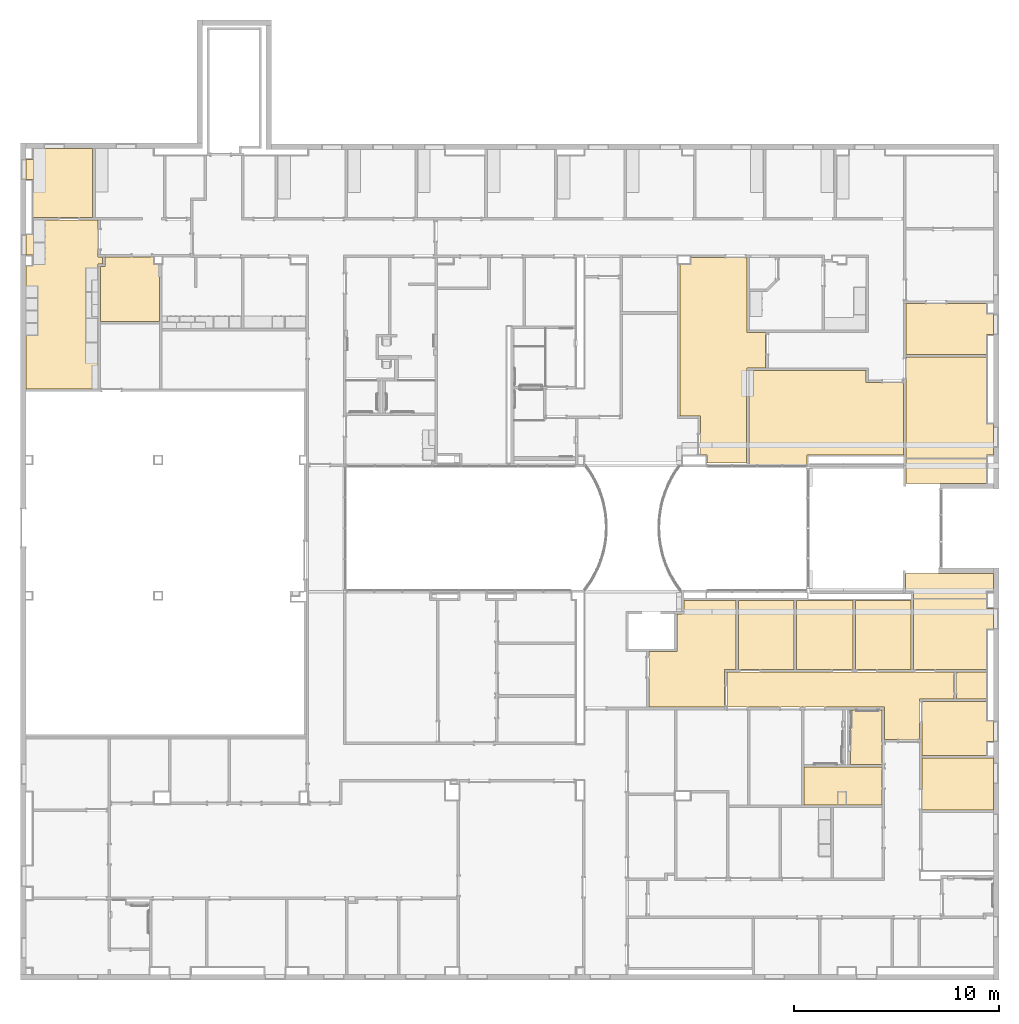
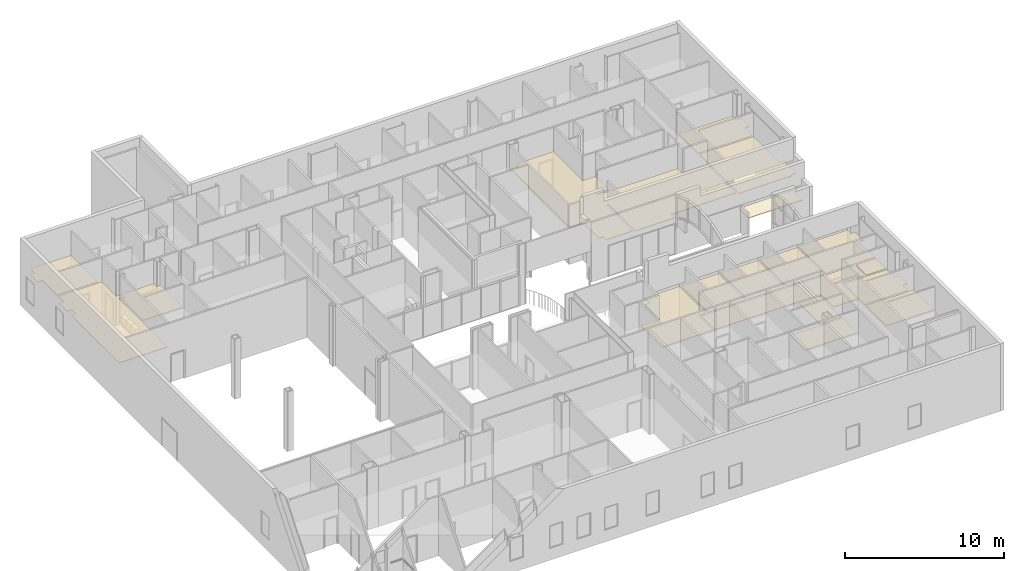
# One storey, part 29 of 47: 19 coverings.
"""IFC2X3 building model written with IfcOpenShell, lengths in metres."""

from ifc_helpers import new_model, entity, si_unit, converted_unit, frame, origin, place, context, project, spatial, face_set, surface_model, material, layer, layer_set, layer_usage, element, save


model = new_model("IFC2X3")

# Units and contexts
model_context = context("Model", 3, precision=1e-09, world=origin())
plan_context = context("Plan", 3, precision=1e-09, world=origin())
ifc_project = project(units=[si_unit("LENGTHUNIT", "METRE"), si_unit("AREAUNIT", "SQUARE_METRE"), si_unit("VOLUMEUNIT", "CUBIC_METRE"), converted_unit("PLANEANGLEUNIT", "DEGREE", entity("IfcRatioMeasure", 0.01745329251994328), si_unit("PLANEANGLEUNIT", "RADIAN"), dimensions=[0, 0, 0, 0, 0, 0, 0]), si_unit("TIMEUNIT", "SECOND")], contexts=[model_context, plan_context])

# Site, building, storey
site_placement = place(None, origin())
site = spatial("IfcSite", under=ifc_project, at=site_placement, Name="Default", CompositionType="ELEMENT")
building_placement = place(site_placement, origin())
building = spatial("IfcBuilding", under=site, at=building_placement, CompositionType="ELEMENT")
storey_placement = place(building_placement, frame((0.0, 0.0, 4.570000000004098)))
storey = spatial("IfcBuildingStorey", under=building, at=storey_placement, Name="Second Floor", CompositionType="ELEMENT", Elevation=4.570000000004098)

# Coverings
ifc_material_1 = material(Name="Default")
ifc_layer_1 = layer(ifc_material_1, 0.03599999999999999)
ifc_material_2 = material(Name="Ceiling Tile 600 x 600")
ifc_layer_2 = layer(ifc_material_2, 0.016)
ifc_layer_set_1 = layer_set([ifc_layer_1, ifc_layer_2], Name="Compound Ceiling:ACT 600 x 600mm Grid")
ifc_layer_usage_1 = layer_usage(ifc_layer_set_1, "AXIS3", "NEGATIVE", 0.0)
covering_1_placement = place(storey_placement, origin())
element("IfcCovering", 1, at=covering_1_placement, inside=storey, material=ifc_layer_usage_1, Name="Compound Ceiling:ACT 600 x 600mm Grid", ObjectType="Compound Ceiling:ACT 600 x 600mm Grid", PredefinedType="CEILING", context=model_context, shape_type="SurfaceModel", body=[
    surface_model("IfcFaceBasedSurfaceModel", [(-47.11300000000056, 48.72244629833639, 2.732000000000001), (-46.77000000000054, 48.72244629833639, 2.732000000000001), (-46.77000000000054, 46.87843871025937, 2.732000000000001), (-43.85400000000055, 46.87843871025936, 2.732000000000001), (-43.85400000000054, 50.23743871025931, 2.732000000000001), (-46.77000000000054, 50.23743871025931, 2.732000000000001), (-46.77000000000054, 49.72244628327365, 2.732000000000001), (-47.11300000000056, 49.72244628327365, 2.732000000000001), (-47.11300000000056, 48.72244629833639, 2.680000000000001), (-47.11300000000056, 49.72244628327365, 2.680000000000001), (-46.77000000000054, 49.72244628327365, 2.680000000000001), (-46.77000000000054, 50.23743871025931, 2.680000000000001), (-43.85400000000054, 50.23743871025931, 2.680000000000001), (-43.85400000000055, 46.87843871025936, 2.680000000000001), (-46.77000000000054, 46.87843871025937, 2.680000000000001), (-46.77000000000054, 48.72244629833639, 2.680000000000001)], [face_set([[[0, 1, 2, 3, 4, 5, 6, 7]], [[8, 9, 10, 11, 12, 13, 14, 15]], [[2, 14, 15, 1]], [[3, 2, 14, 13]], [[4, 3, 13, 12]], [[5, 11, 12, 4]], [[6, 10, 11, 5]], [[7, 9, 10, 6]], [[0, 8, 9, 7]], [[1, 0, 8, 15]]])]),
])
ifc_layer_usage_2 = layer_usage(ifc_layer_set_1, "AXIS3", "NEGATIVE", 0.0)
covering_2_placement = place(storey_placement, origin())
element("IfcCovering", 2, at=covering_2_placement, inside=storey, material=ifc_layer_usage_2, Name="Compound Ceiling:ACT 600 x 600mm Grid", ObjectType="Compound Ceiling:ACT 600 x 600mm Grid", PredefinedType="CEILING", context=model_context, shape_type="SurfaceModel", body=[
    surface_model("IfcFaceBasedSurfaceModel", [(0.1129999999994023, 42.1644387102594, 2.732000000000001), (-0.230000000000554, 42.1644387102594, 2.732000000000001), (-0.2300000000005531, 42.67043871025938, 2.732000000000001), (-4.14600000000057, 42.6704387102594, 2.732000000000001), (-4.146000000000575, 40.19843871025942, 2.732000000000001), (-0.2300000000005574, 40.19843871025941, 2.732000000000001), (-0.2300000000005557, 41.16435057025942, 2.732000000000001), (0.1129999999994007, 41.16435057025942, 2.732000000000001), (0.1129999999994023, 42.1644387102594, 2.680000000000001), (0.1129999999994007, 41.16435057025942, 2.680000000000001), (-0.2300000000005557, 41.16435057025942, 2.680000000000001), (-0.2300000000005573, 40.19843871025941, 2.680000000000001), (-4.146000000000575, 40.19843871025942, 2.680000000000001), (-4.14600000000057, 42.6704387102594, 2.680000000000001), (-0.230000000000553, 42.67043871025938, 2.680000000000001), (-0.230000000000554, 42.1644387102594, 2.680000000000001)], [face_set([[[0, 1, 2, 3, 4, 5, 6, 7]], [[8, 9, 10, 11, 12, 13, 14, 15]], [[2, 1, 15, 14]], [[3, 13, 14, 2]], [[4, 12, 13, 3]], [[5, 4, 12, 11]], [[6, 5, 11, 10]], [[7, 6, 10, 9]], [[0, 7, 9, 8]], [[1, 15, 8, 0]]])]),
])
ifc_layer_usage_3 = layer_usage(ifc_layer_set_1, "AXIS3", "NEGATIVE", 0.0)
covering_3_placement = place(storey_placement, origin())
element("IfcCovering", 3, at=covering_3_placement, inside=storey, material=ifc_layer_usage_3, Name="Compound Ceiling:ACT 600 x 600mm Grid", ObjectType="Compound Ceiling:ACT 600 x 600mm Grid", PredefinedType="CEILING", context=model_context, shape_type="SurfaceModel", body=[
    surface_model("IfcFaceBasedSurfaceModel", [(0.1129999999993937, 36.7956387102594, 2.732000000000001), (-0.2300000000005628, 36.7956387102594, 2.732000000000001), (-0.2300000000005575, 40.07443871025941, 2.732000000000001), (-4.146000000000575, 40.07443871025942, 2.732000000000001), (-4.146000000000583, 35.14049999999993, 2.732000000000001), (-0.2300000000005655, 35.14049999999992, 2.732000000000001), (-0.230000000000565, 35.2744387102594, 2.732000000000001), (0.1129999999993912, 35.2744387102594, 2.732000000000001), (0.1129999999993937, 36.7956387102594, 2.680000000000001), (0.1129999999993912, 35.2744387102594, 2.680000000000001), (-0.230000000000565, 35.2744387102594, 2.680000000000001), (-0.2300000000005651, 35.14049999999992, 2.680000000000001), (-4.146000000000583, 35.14049999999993, 2.680000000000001), (-4.146000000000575, 40.07443871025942, 2.680000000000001), (-0.2300000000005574, 40.07443871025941, 2.680000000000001), (-0.2300000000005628, 36.7956387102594, 2.680000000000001)], [face_set([[[0, 1, 2, 3, 4, 5, 6, 7]], [[8, 9, 10, 11, 12, 13, 14, 15]], [[2, 1, 15, 14]], [[3, 13, 14, 2]], [[4, 12, 13, 3]], [[5, 4, 12, 11]], [[6, 5, 11, 10]], [[7, 6, 10, 9]], [[0, 7, 9, 8]], [[1, 15, 8, 0]]])]),
])
ifc_layer_usage_4 = layer_usage(ifc_layer_set_1, "AXIS3", "NEGATIVE", 0.0)
covering_4_placement = place(storey_placement, origin())
element("IfcCovering", 4, at=covering_4_placement, inside=storey, material=ifc_layer_usage_4, Name="Compound Ceiling:ACT 600 x 600mm Grid", ObjectType="Compound Ceiling:ACT 600 x 600mm Grid", PredefinedType="CEILING", context=model_context, shape_type="SurfaceModel", body=[
    surface_model("IfcFaceBasedSurfaceModel", [(-14.64997500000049, 44.5844387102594, 2.732000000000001), (-14.64997500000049, 44.92043871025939, 2.732000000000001), (-11.92000000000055, 44.92043871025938, 2.732000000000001), (-11.92000000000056, 41.25443871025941, 2.732000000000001), (-11.00500000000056, 41.25443871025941, 2.732000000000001), (-11.00500000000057, 39.54443871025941, 2.732000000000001), (-11.92000000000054, 39.54443871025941, 2.732000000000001), (-11.92000000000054, 39.4204387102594, 2.732000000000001), (-6.104000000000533, 39.42043871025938, 2.732000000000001), (-6.104000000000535, 38.82043871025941, 2.732000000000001), (-4.270000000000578, 38.8204387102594, 2.732000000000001), (-4.270000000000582, 35.2744387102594, 2.732000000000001), (-8.981726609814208, 35.2744387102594, 2.732000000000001), (-8.981726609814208, 34.83380159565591, 2.732000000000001), (-11.83000000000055, 34.83380159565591, 2.732000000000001), (-11.83000000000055, 38.1449715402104, 2.732000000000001), (-11.95400000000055, 38.1449715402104, 2.732000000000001), (-11.95400000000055, 34.90443871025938, 2.732000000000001), (-13.8725000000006, 34.90443871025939, 2.732000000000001), (-13.8725000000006, 35.27443871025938, 2.732000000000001), (-14.19600000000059, 35.27443871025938, 2.732000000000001), (-14.19600000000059, 37.19843871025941, 2.732000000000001), (-15.1960000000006, 37.19843871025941, 2.732000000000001), (-15.19600000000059, 42.28643871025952, 2.732000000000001), (-15.19600000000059, 44.5844387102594, 2.732000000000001), (-14.64997500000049, 44.5844387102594, 2.680000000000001), (-14.64997500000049, 44.92043871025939, 2.680000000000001), (-11.92000000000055, 44.92043871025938, 2.680000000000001), (-11.92000000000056, 41.25443871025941, 2.680000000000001), (-11.00500000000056, 41.25443871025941, 2.680000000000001), (-11.00500000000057, 39.54443871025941, 2.680000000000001), (-11.92000000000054, 39.54443871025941, 2.680000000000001), (-11.92000000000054, 39.4204387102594, 2.680000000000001), (-6.104000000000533, 39.42043871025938, 2.680000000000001), (-6.104000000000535, 38.82043871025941, 2.680000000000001), (-4.270000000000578, 38.8204387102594, 2.680000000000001), (-4.270000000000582, 35.2744387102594, 2.680000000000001), (-8.981726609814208, 35.2744387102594, 2.680000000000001), (-8.981726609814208, 34.83380159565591, 2.680000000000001), (-11.83000000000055, 34.83380159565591, 2.680000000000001), (-11.83000000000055, 38.1449715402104, 2.680000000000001), (-11.95400000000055, 38.1449715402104, 2.680000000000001), (-11.95400000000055, 34.90443871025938, 2.680000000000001), (-13.8725000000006, 34.90443871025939, 2.680000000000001), (-13.8725000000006, 35.27443871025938, 2.680000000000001), (-14.19600000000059, 35.27443871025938, 2.680000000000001), (-14.19600000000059, 37.19843871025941, 2.680000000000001), (-15.1960000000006, 37.19843871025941, 2.680000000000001), (-15.19600000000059, 42.28643871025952, 2.680000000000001), (-15.19600000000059, 44.5844387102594, 2.680000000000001)], [face_set([[[0, 1, 2, 3, 4, 5, 6, 7, 8, 9, 10, 11, 12, 13, 14, 15, 16, 17, 18, 19, 20, 21, 22, 23, 24]], [[25, 26, 27, 28, 29, 30, 31, 32, 33, 34, 35, 36, 37, 38, 39, 40, 41, 42, 43, 44, 45, 46, 47, 48, 49]], [[24, 49, 25, 0]], [[23, 48, 49, 24]], [[22, 47, 48, 23]], [[21, 22, 47, 46]], [[20, 45, 46, 21]], [[19, 20, 45, 44]], [[18, 43, 44, 19]], [[17, 18, 43, 42]], [[16, 17, 42, 41]], [[15, 16, 41, 40]], [[14, 39, 40, 15]], [[13, 14, 39, 38]], [[12, 13, 38, 37]], [[11, 12, 37, 36]], [[10, 11, 36, 35]], [[9, 34, 35, 10]], [[8, 9, 34, 33]], [[7, 32, 33, 8]], [[6, 7, 32, 31]], [[5, 6, 31, 30]], [[4, 5, 30, 29]], [[3, 28, 29, 4]], [[2, 3, 28, 27]], [[1, 26, 27, 2]], [[0, 25, 26, 1]]])]),
])
ifc_layer_usage_5 = layer_usage(ifc_layer_set_1, "AXIS3", "NEGATIVE", 0.0)
covering_5_placement = place(storey_placement, origin())
element("IfcCovering", 5, at=covering_5_placement, inside=storey, material=ifc_layer_usage_5, Name="Compound Ceiling:ACT 600 x 600mm Grid", ObjectType="Compound Ceiling:ACT 600 x 600mm Grid", PredefinedType="CEILING", context=model_context, shape_type="SurfaceModel", body=[
    surface_model("IfcFaceBasedSurfaceModel", [(-43.47600000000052, 41.79843871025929, 2.732000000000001), (-43.47600000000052, 44.48043871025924, 2.732000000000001), (-43.24600000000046, 44.48043871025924, 2.732000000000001), (-43.24600000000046, 44.95443871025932, 2.732000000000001), (-40.8900000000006, 44.95443871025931, 2.732000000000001), (-40.8900000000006, 44.5844387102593, 2.732000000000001), (-40.60000000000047, 44.5844387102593, 2.732000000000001), (-40.60000000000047, 41.79843871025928, 2.732000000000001), (-43.47600000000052, 41.79843871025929, 2.680000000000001), (-43.47600000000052, 44.48043871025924, 2.680000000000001), (-43.24600000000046, 44.48043871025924, 2.680000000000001), (-43.24600000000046, 44.95443871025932, 2.680000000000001), (-40.8900000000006, 44.95443871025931, 2.680000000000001), (-40.8900000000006, 44.5844387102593, 2.680000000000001), (-40.60000000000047, 44.5844387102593, 2.680000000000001), (-40.60000000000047, 41.79843871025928, 2.680000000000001)], [face_set([[[0, 1, 2, 3, 4, 5, 6, 7]], [[8, 9, 10, 11, 12, 13, 14, 15]], [[7, 0, 8, 15]], [[6, 7, 15, 14]], [[5, 13, 14, 6]], [[4, 5, 13, 12]], [[3, 11, 12, 4]], [[2, 10, 11, 3]], [[1, 9, 10, 2]], [[0, 8, 9, 1]]])]),
])
ifc_layer_usage_6 = layer_usage(ifc_layer_set_1, "AXIS3", "NEGATIVE", 0.0)
covering_6_placement = place(storey_placement, origin())
element("IfcCovering", 6, at=covering_6_placement, inside=storey, material=ifc_layer_usage_6, Name="Compound Ceiling:ACT 600 x 600mm Grid", ObjectType="Compound Ceiling:ACT 600 x 600mm Grid", PredefinedType="CEILING", context=model_context, shape_type="SurfaceModel", body=[
    surface_model("IfcFaceBasedSurfaceModel", [(-47.11300000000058, 38.51843871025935, 2.732000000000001), (-47.11300000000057, 44.50692803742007, 2.732000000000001), (-46.77000000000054, 44.50692803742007, 2.732000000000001), (-46.77000000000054, 45.0444387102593, 2.732000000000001), (-47.11300000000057, 45.0444387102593, 2.732000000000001), (-47.11300000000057, 46.04443913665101, 2.732000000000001), (-46.77000000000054, 46.04443913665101, 2.732000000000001), (-46.77000000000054, 46.75443871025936, 2.732000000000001), (-43.60000000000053, 46.75443871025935, 2.732000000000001), (-43.60000000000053, 44.95443871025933, 2.732000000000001), (-43.37000000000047, 44.95443871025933, 2.732000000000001), (-43.37000000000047, 44.60443871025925, 2.732000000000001), (-43.60000000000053, 44.60443871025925, 2.732000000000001), (-43.60000000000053, 38.51843871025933, 2.732000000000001), (-47.11300000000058, 38.51843871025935, 2.680000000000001), (-47.11300000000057, 44.50692803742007, 2.680000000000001), (-46.77000000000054, 44.50692803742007, 2.680000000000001), (-46.77000000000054, 45.0444387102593, 2.680000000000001), (-47.11300000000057, 45.0444387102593, 2.680000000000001), (-47.11300000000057, 46.04443913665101, 2.680000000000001), (-46.77000000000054, 46.04443913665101, 2.680000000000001), (-46.77000000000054, 46.75443871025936, 2.680000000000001), (-43.60000000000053, 46.75443871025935, 2.680000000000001), (-43.60000000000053, 44.95443871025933, 2.680000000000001), (-43.37000000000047, 44.95443871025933, 2.680000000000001), (-43.37000000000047, 44.60443871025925, 2.680000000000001), (-43.60000000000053, 44.60443871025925, 2.680000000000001), (-43.60000000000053, 38.51843871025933, 2.680000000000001)], [face_set([[[0, 1, 2, 3, 4, 5, 6, 7, 8, 9, 10, 11, 12, 13]], [[14, 15, 16, 17, 18, 19, 20, 21, 22, 23, 24, 25, 26, 27]], [[13, 0, 14, 27]], [[12, 13, 27, 26]], [[11, 12, 26, 25]], [[10, 11, 25, 24]], [[9, 23, 24, 10]], [[8, 9, 23, 22]], [[7, 21, 22, 8]], [[6, 20, 21, 7]], [[5, 19, 20, 6]], [[4, 18, 19, 5]], [[3, 4, 18, 17]], [[2, 16, 17, 3]], [[1, 15, 16, 2]], [[0, 14, 15, 1]]])]),
])
ifc_layer_usage_7 = layer_usage(ifc_layer_set_1, "AXIS3", "NEGATIVE", 0.0)
covering_7_placement = place(storey_placement, origin())
element("IfcCovering", 7, at=covering_7_placement, inside=storey, material=ifc_layer_usage_7, Name="Compound Ceiling:ACT 600 x 600mm Grid", ObjectType="Compound Ceiling:ACT 600 x 600mm Grid", PredefinedType="CEILING", context=model_context, shape_type="SurfaceModel", body=[
    surface_model("IfcFaceBasedSurfaceModel", [(-3.366000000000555, 20.50443871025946, 2.732000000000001), (0.1129999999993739, 20.50443871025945, 2.732000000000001), (0.1129999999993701, 17.96793871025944, 2.732000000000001), (-3.366000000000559, 17.96793871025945, 2.732000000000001), (-3.366000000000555, 20.50443871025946, 2.680000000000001), (0.1129999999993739, 20.50443871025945, 2.680000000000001), (0.1129999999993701, 17.96793871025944, 2.680000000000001), (-3.366000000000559, 17.96793871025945, 2.680000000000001)], [face_set([[[0, 1, 2, 3]], [[4, 5, 6, 7]], [[3, 7, 4, 0]], [[2, 3, 7, 6]], [[1, 2, 6, 5]], [[0, 4, 5, 1]]])]),
])
ifc_layer_usage_8 = layer_usage(ifc_layer_set_1, "AXIS3", "NEGATIVE", 0.0)
covering_8_placement = place(storey_placement, origin())
element("IfcCovering", 8, at=covering_8_placement, inside=storey, material=ifc_layer_usage_8, Name="Compound Ceiling:ACT 600 x 600mm Grid", ObjectType="Compound Ceiling:ACT 600 x 600mm Grid", PredefinedType="CEILING", context=model_context, shape_type="SurfaceModel", body=[
    surface_model("IfcFaceBasedSurfaceModel", [(0.1129999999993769, 22.29443871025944, 2.732000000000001), (-0.2300000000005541, 22.29443871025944, 2.732000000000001), (-0.2300000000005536, 23.26043871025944, 2.732000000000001), (-3.36600000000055, 23.26043871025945, 2.732000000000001), (-3.366000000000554, 21.33903871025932, 2.732000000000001), (-3.366000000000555, 20.62843871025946, 2.732000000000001), (-0.2300000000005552, 20.62843871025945, 2.732000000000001), (-0.2300000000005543, 21.29443871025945, 2.732000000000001), (0.1129999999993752, 21.29443871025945, 2.732000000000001), (0.1129999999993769, 22.29443871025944, 2.680000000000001), (0.1129999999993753, 21.29443871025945, 2.680000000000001), (-0.2300000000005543, 21.29443871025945, 2.680000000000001), (-0.2300000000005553, 20.62843871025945, 2.680000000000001), (-3.366000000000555, 20.62843871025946, 2.680000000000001), (-3.366000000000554, 21.33903871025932, 2.680000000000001), (-3.36600000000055, 23.26043871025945, 2.680000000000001), (-0.2300000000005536, 23.26043871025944, 2.680000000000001), (-0.2300000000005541, 22.29443871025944, 2.680000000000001)], [face_set([[[0, 1, 2, 3, 4, 5, 6, 7, 8]], [[9, 10, 11, 12, 13, 14, 15, 16, 17]], [[2, 1, 17, 16]], [[3, 15, 16, 2]], [[4, 14, 15, 3]], [[5, 13, 14, 4]], [[6, 5, 13, 12]], [[7, 6, 12, 11]], [[8, 7, 11, 10]], [[0, 8, 10, 9]], [[1, 17, 9, 0]]])]),
])
ifc_layer_usage_9 = layer_usage(ifc_layer_set_1, "AXIS3", "NEGATIVE", 0.0)
covering_9_placement = place(storey_placement, origin())
element("IfcCovering", 9, at=covering_9_placement, inside=storey, material=ifc_layer_usage_9, Name="Compound Ceiling:ACT 600 x 600mm Grid", ObjectType="Compound Ceiling:ACT 600 x 600mm Grid", PredefinedType="CEILING", context=model_context, shape_type="SurfaceModel", body=[
    surface_model("IfcFaceBasedSurfaceModel", [(-9.126000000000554, 20.05443871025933, 2.732000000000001), (-5.324000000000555, 20.05443871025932, 2.732000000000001), (-5.324000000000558, 18.20443871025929, 2.732000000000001), (-9.126000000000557, 18.2044387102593, 2.732000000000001), (-9.126000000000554, 20.05443871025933, 2.680000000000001), (-5.324000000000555, 20.05443871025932, 2.680000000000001), (-5.324000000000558, 18.20443871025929, 2.680000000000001), (-9.126000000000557, 18.2044387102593, 2.680000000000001)], [face_set([[[0, 1, 2, 3]], [[4, 5, 6, 7]], [[3, 7, 4, 0]], [[2, 3, 7, 6]], [[1, 2, 6, 5]], [[0, 4, 5, 1]]])]),
])
ifc_layer_usage_10 = layer_usage(ifc_layer_set_1, "AXIS3", "NEGATIVE", 0.0)
covering_10_placement = place(storey_placement, origin())
element("IfcCovering", 10, at=covering_10_placement, inside=storey, material=ifc_layer_usage_10, Name="Compound Ceiling:ACT 600 x 600mm Grid", ObjectType="Compound Ceiling:ACT 600 x 600mm Grid", PredefinedType="CEILING", context=model_context, shape_type="SurfaceModel", body=[
    surface_model("IfcFaceBasedSurfaceModel", [(-6.870000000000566, 20.17843871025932, 2.732000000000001), (-6.870000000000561, 22.85043871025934, 2.732000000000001), (-5.324000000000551, 22.85043871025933, 2.732000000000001), (-5.324000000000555, 20.17843871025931, 2.732000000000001), (-6.870000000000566, 20.17843871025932, 2.680000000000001), (-6.870000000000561, 22.85043871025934, 2.680000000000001), (-5.324000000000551, 22.85043871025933, 2.680000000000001), (-5.324000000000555, 20.17843871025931, 2.680000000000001)], [face_set([[[0, 1, 2, 3]], [[4, 5, 6, 7]], [[3, 0, 4, 7]], [[2, 3, 7, 6]], [[1, 5, 6, 2]], [[0, 4, 5, 1]]])]),
])
ifc_layer_usage_11 = layer_usage(ifc_layer_set_1, "AXIS3", "NEGATIVE", 0.0)
covering_11_placement = place(storey_placement, origin())
element("IfcCovering", 11, at=covering_11_placement, inside=storey, material=ifc_layer_usage_11, Name="Compound Ceiling:ACT 600 x 600mm Grid", ObjectType="Compound Ceiling:ACT 600 x 600mm Grid", PredefinedType="CEILING", context=model_context, shape_type="SurfaceModel", body=[
    surface_model("IfcFaceBasedSurfaceModel", [(-12.88600000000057, 24.68443871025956, 2.732000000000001), (-1.810000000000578, 24.68443871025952, 2.732000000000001), (-1.810000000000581, 23.38443871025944, 2.732000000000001), (-3.49000000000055, 23.38443871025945, 2.732000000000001), (-3.490000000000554, 21.40103871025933, 2.732000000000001), (-5.200000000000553, 21.40103871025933, 2.732000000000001), (-5.200000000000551, 22.97443871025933, 2.732000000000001), (-12.88600000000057, 22.97443871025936, 2.732000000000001), (-12.88600000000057, 24.68443871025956, 2.680000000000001), (-1.810000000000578, 24.68443871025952, 2.680000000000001), (-1.810000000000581, 23.38443871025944, 2.680000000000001), (-3.49000000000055, 23.38443871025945, 2.680000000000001), (-3.490000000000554, 21.40103871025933, 2.680000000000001), (-5.200000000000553, 21.40103871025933, 2.680000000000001), (-5.200000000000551, 22.97443871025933, 2.680000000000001), (-12.88600000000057, 22.97443871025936, 2.680000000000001)], [face_set([[[0, 1, 2, 3, 4, 5, 6, 7]], [[8, 9, 10, 11, 12, 13, 14, 15]], [[7, 15, 8, 0]], [[6, 7, 15, 14]], [[5, 13, 14, 6]], [[4, 5, 13, 12]], [[3, 4, 12, 11]], [[2, 3, 11, 10]], [[1, 2, 10, 9]], [[0, 8, 9, 1]]])]),
])
ifc_layer_usage_12 = layer_usage(ifc_layer_set_1, "AXIS3", "NEGATIVE", 0.0)
covering_12_placement = place(storey_placement, origin())
element("IfcCovering", 12, at=covering_12_placement, inside=storey, material=ifc_layer_usage_12, Name="Compound Ceiling:ACT 600 x 600mm Grid", ObjectType="Compound Ceiling:ACT 600 x 600mm Grid", PredefinedType="CEILING", context=model_context, shape_type="SurfaceModel", body=[
    surface_model("IfcFaceBasedSurfaceModel", [(-1.686000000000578, 24.68443871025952, 2.732000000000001), (-0.2300000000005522, 24.68443871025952, 2.732000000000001), (-0.230000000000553, 23.38443871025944, 2.732000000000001), (-1.686000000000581, 23.38443871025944, 2.732000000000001), (-1.686000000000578, 24.68443871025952, 2.680000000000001), (-0.2300000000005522, 24.68443871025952, 2.680000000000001), (-0.2300000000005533, 23.38443871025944, 2.680000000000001), (-1.686000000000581, 23.38443871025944, 2.680000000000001)], [face_set([[[0, 1, 2, 3]], [[4, 5, 6, 7]], [[3, 7, 4, 0]], [[2, 3, 7, 6]], [[1, 2, 6, 5]], [[0, 4, 5, 1]]])]),
])
ifc_layer_usage_13 = layer_usage(ifc_layer_set_1, "AXIS3", "NEGATIVE", 0.0)
covering_13_placement = place(storey_placement, origin())
element("IfcCovering", 13, at=covering_13_placement, inside=storey, material=ifc_layer_usage_13, Name="Compound Ceiling:ACT 600 x 600mm Grid", ObjectType="Compound Ceiling:ACT 600 x 600mm Grid", PredefinedType="CEILING", context=model_context, shape_type="SurfaceModel", body=[
    surface_model("IfcFaceBasedSurfaceModel", [(-3.789975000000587, 24.80843871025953, 2.732000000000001), (-3.789975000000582, 28.2495, 2.732000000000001), (-0.230000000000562, 28.24949999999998, 2.732000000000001), (-0.2300000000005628, 27.79443871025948, 2.732000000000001), (0.1129999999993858, 27.79443871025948, 2.732000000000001), (0.1129999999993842, 26.79443871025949, 2.732000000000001), (-0.2300000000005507, 26.79443871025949, 2.732000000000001), (-0.230000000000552, 24.80843871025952, 2.732000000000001), (-3.789975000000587, 24.80843871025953, 2.680000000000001), (-3.789975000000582, 28.2495, 2.680000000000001), (-0.2300000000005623, 28.24949999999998, 2.680000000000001), (-0.2300000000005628, 27.79443871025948, 2.680000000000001), (0.1129999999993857, 27.79443871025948, 2.680000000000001), (0.1129999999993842, 26.79443871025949, 2.680000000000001), (-0.2300000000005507, 26.79443871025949, 2.680000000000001), (-0.2300000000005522, 24.80843871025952, 2.680000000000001)], [face_set([[[0, 1, 2, 3, 4, 5, 6, 7]], [[8, 9, 10, 11, 12, 13, 14, 15]], [[0, 8, 9, 1]], [[7, 0, 8, 15]], [[6, 7, 15, 14]], [[5, 6, 14, 13]], [[4, 5, 13, 12]], [[3, 11, 12, 4]], [[2, 3, 11, 10]], [[1, 9, 10, 2]]])]),
])
ifc_layer_usage_14 = layer_usage(ifc_layer_set_1, "AXIS3", "NEGATIVE", 0.0)
covering_14_placement = place(storey_placement, origin())
element("IfcCovering", 14, at=covering_14_placement, inside=storey, material=ifc_layer_usage_14, Name="Compound Ceiling:ACT 600 x 600mm Grid", ObjectType="Compound Ceiling:ACT 600 x 600mm Grid", PredefinedType="CEILING", context=model_context, shape_type="SurfaceModel", body=[
    surface_model("IfcFaceBasedSurfaceModel", [(-6.629975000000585, 24.80843871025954, 2.732000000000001), (-6.629975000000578, 28.18443871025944, 2.732000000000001), (-3.913975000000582, 28.18443871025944, 2.732000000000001), (-3.913975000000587, 24.80843871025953, 2.732000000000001), (-6.629975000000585, 24.80843871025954, 2.680000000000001), (-6.629975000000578, 28.18443871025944, 2.680000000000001), (-3.913975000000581, 28.18443871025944, 2.680000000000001), (-3.913975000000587, 24.80843871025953, 2.680000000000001)], [face_set([[[0, 1, 2, 3]], [[4, 5, 6, 7]], [[3, 0, 4, 7]], [[2, 3, 7, 6]], [[1, 5, 6, 2]], [[0, 4, 5, 1]]])]),
])
ifc_layer_usage_15 = layer_usage(ifc_layer_set_1, "AXIS3", "NEGATIVE", 0.0)
covering_15_placement = place(storey_placement, origin())
element("IfcCovering", 15, at=covering_15_placement, inside=storey, material=ifc_layer_usage_15, Name="Compound Ceiling:ACT 600 x 600mm Grid", ObjectType="Compound Ceiling:ACT 600 x 600mm Grid", PredefinedType="CEILING", context=model_context, shape_type="SurfaceModel", body=[
    surface_model("IfcFaceBasedSurfaceModel", [(-9.489975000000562, 24.80843871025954, 2.732000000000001), (-9.489975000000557, 28.18443871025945, 2.732000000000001), (-6.75397500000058, 28.18443871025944, 2.732000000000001), (-6.753975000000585, 24.80843871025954, 2.732000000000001), (-9.489975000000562, 24.80843871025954, 2.680000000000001), (-9.489975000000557, 28.18443871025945, 2.680000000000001), (-6.75397500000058, 28.18443871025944, 2.680000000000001), (-6.753975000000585, 24.80843871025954, 2.680000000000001)], [face_set([[[0, 1, 2, 3]], [[4, 5, 6, 7]], [[3, 0, 4, 7]], [[2, 3, 7, 6]], [[1, 5, 6, 2]], [[0, 4, 5, 1]]])]),
])
ifc_layer_usage_16 = layer_usage(ifc_layer_set_1, "AXIS3", "NEGATIVE", 0.0)
covering_16_placement = place(storey_placement, origin())
element("IfcCovering", 16, at=covering_16_placement, inside=storey, material=ifc_layer_usage_16, Name="Compound Ceiling:ACT 600 x 600mm Grid", ObjectType="Compound Ceiling:ACT 600 x 600mm Grid", PredefinedType="CEILING", context=model_context, shape_type="SurfaceModel", body=[
    surface_model("IfcFaceBasedSurfaceModel", [(-12.32997500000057, 24.80843871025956, 2.732000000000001), (-12.32997500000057, 28.18443871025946, 2.732000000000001), (-9.613975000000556, 28.18443871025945, 2.732000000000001), (-9.613975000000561, 24.80843871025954, 2.732000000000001), (-12.32997500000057, 24.80843871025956, 2.680000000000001), (-12.32997500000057, 28.18443871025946, 2.680000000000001), (-9.613975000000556, 28.18443871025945, 2.680000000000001), (-9.613975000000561, 24.80843871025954, 2.680000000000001)], [face_set([[[0, 1, 2, 3]], [[4, 5, 6, 7]], [[3, 0, 4, 7]], [[2, 3, 7, 6]], [[1, 5, 6, 2]], [[0, 4, 5, 1]]])]),
])
ifc_layer_usage_17 = layer_usage(ifc_layer_set_1, "AXIS3", "NEGATIVE", 0.0)
covering_17_placement = place(storey_placement, origin())
element("IfcCovering", 17, at=covering_17_placement, inside=storey, material=ifc_layer_usage_17, Name="Compound Ceiling:ACT 600 x 600mm Grid", ObjectType="Compound Ceiling:ACT 600 x 600mm Grid", PredefinedType="CEILING", context=model_context, shape_type="SurfaceModel", body=[
    surface_model("IfcFaceBasedSurfaceModel", [(-16.70600000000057, 25.68339999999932, 2.732000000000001), (-15.34600000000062, 25.68339999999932, 2.732000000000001), (-15.34600000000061, 27.52189999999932, 2.732000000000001), (-14.98597500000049, 27.52189999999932, 2.732000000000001), (-14.98597500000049, 28.18443871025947, 2.732000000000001), (-12.45397500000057, 28.18443871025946, 2.732000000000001), (-12.45397500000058, 24.80843871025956, 2.732000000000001), (-13.01000000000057, 24.80843871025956, 2.732000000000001), (-13.01000000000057, 22.97443871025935, 2.732000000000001), (-16.70600000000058, 22.97443871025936, 2.732000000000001), (-16.70600000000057, 25.68339999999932, 2.680000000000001), (-16.70600000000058, 22.97443871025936, 2.680000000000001), (-13.01000000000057, 22.97443871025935, 2.680000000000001), (-13.01000000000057, 24.80843871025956, 2.680000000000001), (-12.45397500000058, 24.80843871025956, 2.680000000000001), (-12.45397500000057, 28.18443871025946, 2.680000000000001), (-14.98597500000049, 28.18443871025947, 2.680000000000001), (-14.98597500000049, 27.52189999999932, 2.680000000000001), (-15.34600000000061, 27.52189999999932, 2.680000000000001), (-15.34600000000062, 25.68339999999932, 2.680000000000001)], [face_set([[[0, 1, 2, 3, 4, 5, 6, 7, 8, 9]], [[10, 11, 12, 13, 14, 15, 16, 17, 18, 19]], [[9, 11, 10, 0]], [[8, 9, 11, 12]], [[7, 8, 12, 13]], [[6, 7, 13, 14]], [[5, 6, 14, 15]], [[4, 16, 15, 5]], [[3, 17, 16, 4]], [[2, 18, 17, 3]], [[1, 19, 18, 2]], [[0, 10, 19, 1]]])]),
])
ifc_material_3 = material(Name="Metal - Stud Layer")
ifc_layer_3 = layer(ifc_material_3, 0.045)
ifc_material_4 = material(Name="Plasterboard")
ifc_layer_4 = layer(ifc_material_4, 0.012)
ifc_layer_set_2 = layer_set([ifc_layer_3, ifc_layer_4], Name="Compound Ceiling:Gypsum Board")
ifc_layer_usage_18 = layer_usage(ifc_layer_set_2, "AXIS3", "NEGATIVE", 0.0)
covering_18_placement = place(storey_placement, origin())
element("IfcCovering", 18, at=covering_18_placement, inside=storey, material=ifc_layer_usage_18, Name="Compound Ceiling:Gypsum Board", ObjectType="Compound Ceiling:Gypsum Board", PredefinedType="CEILING", context=model_context, shape_type="SurfaceModel", body=[
    surface_model("IfcFaceBasedSurfaceModel", [(-4.180000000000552, 29.49299999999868, 1.607), (0.1129999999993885, 29.49299999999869, 1.607), (0.1129999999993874, 28.64443871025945, 1.607), (-0.2310000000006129, 28.64443871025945, 1.607), (-0.2310000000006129, 28.30349999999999, 1.607), (-0.2310000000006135, 28.26149999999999, 1.607), (-3.789975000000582, 28.2615, 1.607), (-3.789975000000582, 28.30349999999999, 1.607), (-3.789975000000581, 28.58243871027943, 1.607), (-4.180000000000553, 28.58243871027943, 1.607), (-4.180000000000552, 29.49299999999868, 1.55), (0.1129999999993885, 29.49299999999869, 1.55), (0.1129999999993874, 28.64443871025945, 1.55), (-0.2310000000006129, 28.64443871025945, 1.55), (-0.2310000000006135, 28.26149999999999, 1.55), (-3.789975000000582, 28.2615, 1.55), (-3.789975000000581, 28.58243871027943, 1.55), (-4.180000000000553, 28.58243871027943, 1.55)], [face_set([[[0, 1, 2, 3, 4, 5, 6, 7, 8, 9]], [[10, 11, 12, 13, 14, 15, 16, 17]], [[9, 17, 10, 0]], [[8, 9, 17, 16]], [[6, 15, 16, 8, 7]], [[5, 6, 15, 14]], [[3, 4, 5, 14, 13]], [[2, 3, 13, 12]], [[1, 2, 12, 11]], [[0, 10, 11, 1]]])]),
])
ifc_layer_usage_19 = layer_usage(ifc_layer_set_2, "AXIS3", "NEGATIVE", 0.0)
covering_19_placement = place(storey_placement, origin())
element("IfcCovering", 19, at=covering_19_placement, inside=storey, material=ifc_layer_usage_19, Name="Compound Ceiling:Gypsum Board", ObjectType="Compound Ceiling:Gypsum Board", PredefinedType="CEILING", context=model_context, shape_type="SurfaceModel", body=[
    surface_model("IfcFaceBasedSurfaceModel", [(-4.146000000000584, 33.89700000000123, 1.607), (-4.146000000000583, 35.08649999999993, 1.607), (-4.146000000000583, 35.12849999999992, 1.607), (-0.2310000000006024, 35.12849999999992, 1.607), (-0.2310000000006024, 35.08649999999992, 1.607), (-0.2310000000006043, 33.89700000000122, 1.607), (-4.146000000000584, 33.89700000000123, 1.55), (-4.146000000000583, 35.12849999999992, 1.55), (-0.2310000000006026, 35.12849999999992, 1.55), (-0.2310000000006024, 35.08649999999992, 1.55), (-0.2310000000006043, 33.89700000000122, 1.55)], [face_set([[[0, 1, 2, 3, 4, 5]], [[6, 7, 8, 9, 10]], [[0, 6, 7, 2, 1]], [[2, 7, 8, 3]], [[3, 4, 5, 10, 9, 8]], [[5, 0, 6, 10]]])]),
])

save(model, "model.ifc")
